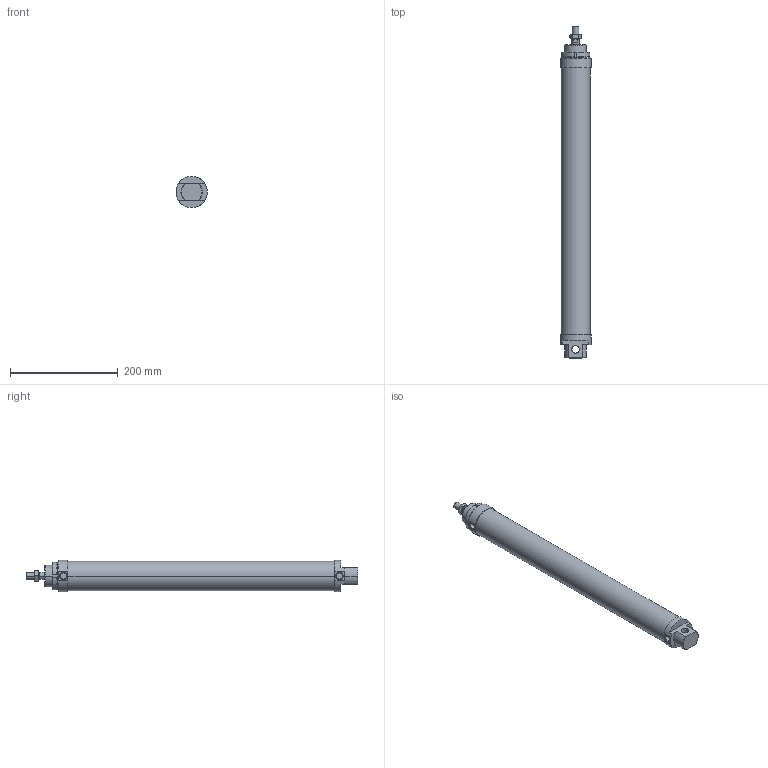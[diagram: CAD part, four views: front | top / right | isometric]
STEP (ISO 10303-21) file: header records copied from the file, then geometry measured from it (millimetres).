
FILE_DESCRIPTION((''),'2;1');
FILE_NAME('I:\DOC-EDP\Lib-3d\1200\CILINDRI\1260\1260_50_0450.stp','2003-04-02T15:12:15',('maffial1'),(''),'Autodesk Inventor (R) 6.0','Autodesk Inventor (R) 6.0','');
FILE_SCHEMA(('AUTOMOTIVE_DESIGN { 1 0 10303 214 1 1 1 1 }'));
Length unit declared in the file: millimetre
Products named in the file (5): 1260_50_0450; S1260_50_450; 1200_50_05; 1200_50_06; C1260_50_450
Assembly tree (4 placements, depth 2):
  1260_50_0450
    S1260_50_450
    1200_50_05
    1200_50_06
    C1260_50_450
Bounding box: 56.6 x 617 x 58 mm (x, y, z)
Volume: 1288346.4 mm3; surface area: 154930 mm2
Topology: 4 solids, 4 shells, 122 faces, 286 edges, 180 vertices
Faces by surface type: plane 44, cone 32, cylinder 26, bspline 20
Entity records: 3831 total; most frequent: CARTESIAN_POINT 997, DIRECTION 582, ORIENTED_EDGE 572, EDGE_CURVE 286, AXIS2_PLACEMENT_3D 229, VERTEX_POINT 180, EDGE_LOOP 136, VECTOR 124
